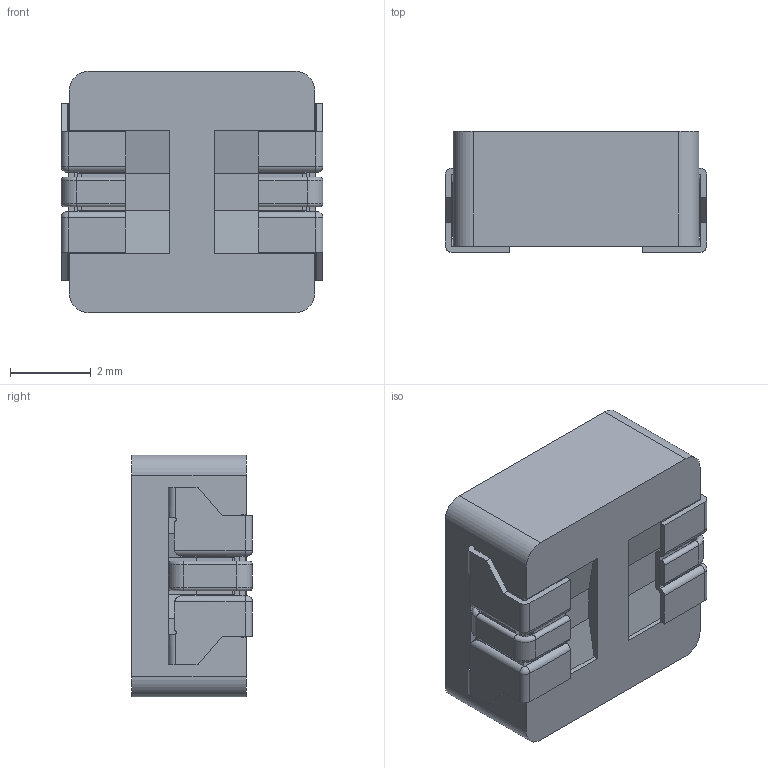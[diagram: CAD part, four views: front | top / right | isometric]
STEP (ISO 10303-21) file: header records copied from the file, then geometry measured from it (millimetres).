
FILE_DESCRIPTION (( 'STEP AP214' ), '1' );
FILE_NAME ('M0630M_R68YFN_提出用.STEP', '2016-01-12T08:13:32', ( '' ), ( '' ), 'SwSTEP 2.0', 'SolidWorks 2014', '' );
FILE_SCHEMA (( 'AUTOMOTIVE_DESIGN' ));
Length unit declared in the file: millimetre
Products named in the file (2): M0630M_R68YFN_提出用
Assembly tree (1 placements, depth 2):
  M0630M_R68YFN_提出用
    M0630M_R68YFN_提出用
Bounding box: 6.5 x 3 x 6 mm (x, y, z)
Volume: 102.8 mm3; surface area: 195.5 mm2
Topology: 1 solids, 1 shells, 204 faces, 570 edges, 352 vertices
Faces by surface type: plane 110, cylinder 82, torus 12
Entity records: 8880 total; most frequent: CARTESIAN_POINT 1234, ORIENTED_EDGE 1140, DIRECTION 1130, EDGE_CURVE 570, VECTOR 402, LINE 402, AXIS2_PLACEMENT_3D 364, VERTEX_POINT 352
